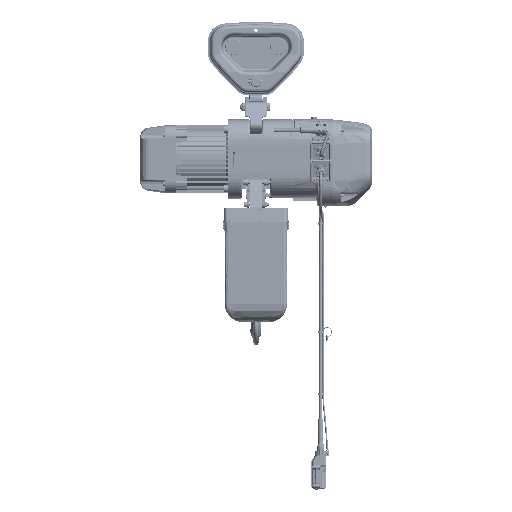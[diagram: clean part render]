
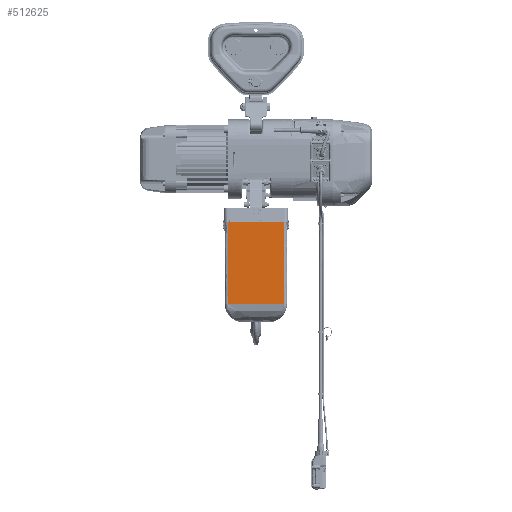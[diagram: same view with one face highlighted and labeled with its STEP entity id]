
A CAD part, top view. The second image highlights one B-rep face of the part: STEP entity #512625.
In plain terms, the highlighted free-form (B-spline) face has degree [1, 1] with [2, 2] control points.
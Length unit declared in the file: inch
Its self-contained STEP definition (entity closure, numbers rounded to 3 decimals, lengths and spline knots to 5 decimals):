
#21688 = ORIENTED_EDGE ( 'NONE', *, *, #529913, .T. ) ;
#60355 = B_SPLINE_CURVE_WITH_KNOTS ( 'NONE', 1,
 ( #267991, #138063 ),
 .UNSPECIFIED., .F., .F.,
 ( 2, 2 ),
 ( 0., 1. ),
 .UNSPECIFIED. ) ;
#138063 = CARTESIAN_POINT ( 'NONE',  ( -11.20007, -8.4168, -3.74016 ) ) ;
#138850 = ORIENTED_EDGE ( 'NONE', *, *, #470764, .T. ) ;
#141691 = B_SPLINE_CURVE_WITH_KNOTS ( 'NONE', 1,
 ( #521150, #282653 ),
 .UNSPECIFIED., .F., .F.,
 ( 2, 2 ),
 ( 0., 1. ),
 .UNSPECIFIED. ) ;
#168572 = VERTEX_POINT ( 'NONE', #557442 ) ;
#169504 = CARTESIAN_POINT ( 'NONE',  ( -11.20007, -8.4168, 3.74016 ) ) ;
#178715 = B_SPLINE_SURFACE_WITH_KNOTS ( 'NONE', 1, 1, ( 
 ( #485454, #526827 ),
 ( #217313, #479693 ) ),
 .UNSPECIFIED., .F., .F., .F.,
 ( 2, 2 ),
 ( 2, 2 ),
 ( 0., 1. ),
 ( 0., 1. ),
 .UNSPECIFIED. ) ;
#217313 = CARTESIAN_POINT ( 'NONE',  ( -11.20007, -19.31786, 3.74016 ) ) ;
#267991 = CARTESIAN_POINT ( 'NONE',  ( -11.20007, -8.4168, 3.74016 ) ) ;
#282653 = CARTESIAN_POINT ( 'NONE',  ( -11.20007, -19.31786, 3.74016 ) ) ;
#283006 = CARTESIAN_POINT ( 'NONE',  ( -11.20007, -8.4168, 3.74016 ) ) ;
#284630 = VERTEX_POINT ( 'NONE', #572945 ) ;
#324286 = EDGE_LOOP ( 'NONE', ( #381033, #21688, #458513, #138850 ) ) ;
#335105 = CARTESIAN_POINT ( 'NONE',  ( -11.20007, -19.31786, -3.74016 ) ) ;
#376682 = FACE_OUTER_BOUND ( 'NONE', #324286, .T. ) ;
#381033 = ORIENTED_EDGE ( 'NONE', *, *, #494948, .T. ) ;
#391453 = EDGE_CURVE ( 'NONE', #168572, #284630, #573543, .T. ) ;
#392336 = VERTEX_POINT ( 'NONE', #283006 ) ;
#394705 = B_SPLINE_CURVE_WITH_KNOTS ( 'NONE', 1,
 ( #481909, #169504 ),
 .UNSPECIFIED., .F., .F.,
 ( 2, 2 ),
 ( 0., 1. ),
 .UNSPECIFIED. ) ;
#396916 = CARTESIAN_POINT ( 'NONE',  ( -11.20007, -19.31786, 3.74016 ) ) ;
#458513 = ORIENTED_EDGE ( 'NONE', *, *, #391453, .T. ) ;
#470764 = EDGE_CURVE ( 'NONE', #284630, #507164, #141691, .T. ) ;
#479693 = CARTESIAN_POINT ( 'NONE',  ( -11.20007, -8.4168, 3.74016 ) ) ;
#481909 = CARTESIAN_POINT ( 'NONE',  ( -11.20007, -19.31786, 3.74016 ) ) ;
#485454 = CARTESIAN_POINT ( 'NONE',  ( -11.20007, -19.31786, -3.74016 ) ) ;
#494948 = EDGE_CURVE ( 'NONE', #507164, #392336, #394705, .T. ) ;
#507164 = VERTEX_POINT ( 'NONE', #396916 ) ;
#511930 = CARTESIAN_POINT ( 'NONE',  ( -11.20007, -8.4168, -3.74016 ) ) ;
#512625 = ADVANCED_FACE ( 'NONE', ( #376682 ), #178715, .T. ) ;
#521150 = CARTESIAN_POINT ( 'NONE',  ( -11.20007, -19.31786, -3.74016 ) ) ;
#526827 = CARTESIAN_POINT ( 'NONE',  ( -11.20007, -8.4168, -3.74016 ) ) ;
#529913 = EDGE_CURVE ( 'NONE', #392336, #168572, #60355, .T. ) ;
#557442 = CARTESIAN_POINT ( 'NONE',  ( -11.20007, -8.4168, -3.74016 ) ) ;
#572945 = CARTESIAN_POINT ( 'NONE',  ( -11.20007, -19.31786, -3.74016 ) ) ;
#573543 = B_SPLINE_CURVE_WITH_KNOTS ( 'NONE', 1,
 ( #511930, #335105 ),
 .UNSPECIFIED., .F., .F.,
 ( 2, 2 ),
 ( 0., 1. ),
 .UNSPECIFIED. ) ;
